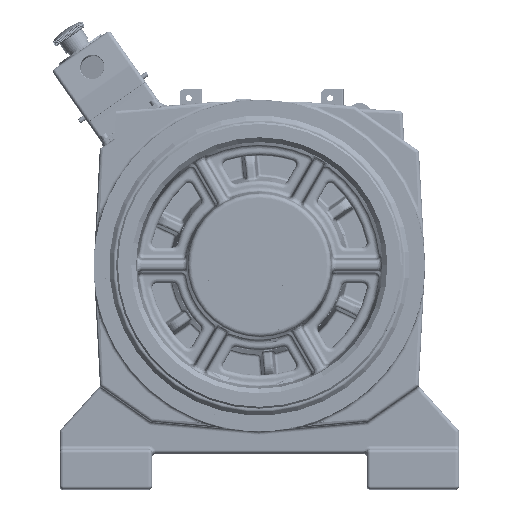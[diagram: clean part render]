
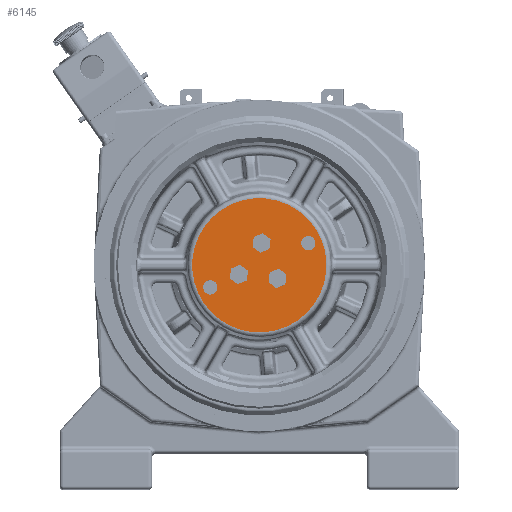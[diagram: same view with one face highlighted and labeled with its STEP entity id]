
A CAD part, top view. The second image highlights one B-rep face of the part: STEP entity #6145.
In plain terms, the highlighted planar face has unit normal (0, 0, 1).
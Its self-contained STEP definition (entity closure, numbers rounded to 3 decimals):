
#104 = CARTESIAN_POINT ( 'NONE',  ( -89.192, 232.614, 454.111 ) ) ;
#258 = VERTEX_POINT ( 'NONE', #74272 ) ;
#2787 = CARTESIAN_POINT ( 'NONE',  ( -10.913, 235.405, 454.111 ) ) ;
#6145 = ADVANCED_FACE ( 'NONE', ( #190985, #207888, #69245, #51208, #36523, #138026 ), #120019, .T. ) ;
#11159 = ORIENTED_EDGE ( 'NONE', *, *, #117328, .T. ) ;
#13152 = AXIS2_PLACEMENT_3D ( 'NONE', #22628, #37374, #160204 ) ;
#13923 = CIRCLE ( 'NONE', #139898, 8. ) ;
#15710 = DIRECTION ( 'NONE',  ( 0., 0., -1. ) ) ;
#16741 = DIRECTION ( 'NONE',  ( -0.411, 0.912, 0. ) ) ;
#16912 = CARTESIAN_POINT ( 'NONE',  ( 20.189, 281.968, 454.111 ) ) ;
#20253 = EDGE_LOOP ( 'NONE', ( #164829, #136620 ) ) ;
#20481 = EDGE_CURVE ( 'NONE', #35611, #55560, #125257, .T. ) ;
#22628 = CARTESIAN_POINT ( 'NONE',  ( -85.902, 225.322, 454.111 ) ) ;
#23164 = DIRECTION ( 'NONE',  ( 0., 0., 1. ) ) ;
#25724 = VERTEX_POINT ( 'NONE', #112876 ) ;
#32127 = DIRECTION ( 'NONE',  ( -0.411, 0.912, 0. ) ) ;
#35611 = VERTEX_POINT ( 'NONE', #127542 ) ;
#35895 = ORIENTED_EDGE ( 'NONE', *, *, #61117, .T. ) ;
#36523 = FACE_BOUND ( 'NONE', #171604, .T. ) ;
#37259 = CARTESIAN_POINT ( 'NONE',  ( -82.612, 218.03, 454.111 ) ) ;
#37374 = DIRECTION ( 'NONE',  ( 0., 0., -1. ) ) ;
#38694 = DIRECTION ( 'NONE',  ( 0., 0., -1. ) ) ;
#39683 = DIRECTION ( 'NONE',  ( -0.411, 0.912, 0. ) ) ;
#42353 = AXIS2_PLACEMENT_3D ( 'NONE', #66401, #47221, #16741 ) ;
#42988 = CIRCLE ( 'NONE', #169052, 75. ) ;
#46244 = CARTESIAN_POINT ( 'NONE',  ( -0.366, 181.636, 454.111 ) ) ;
#47221 = DIRECTION ( 'NONE',  ( 0., 0., -1. ) ) ;
#51208 = FACE_BOUND ( 'NONE', #130465, .T. ) ;
#52282 = AXIS2_PLACEMENT_3D ( 'NONE', #212573, #15710, #170194 ) ;
#52999 = CIRCLE ( 'NONE', #207810, 8. ) ;
#54670 = DIRECTION ( 'NONE',  ( -0.411, 0.912, 0. ) ) ;
#55560 = VERTEX_POINT ( 'NONE', #179347 ) ;
#60993 = CARTESIAN_POINT ( 'NONE',  ( -7.623, 228.113, 454.111 ) ) ;
#61117 = EDGE_CURVE ( 'NONE', #25724, #86072, #107169, .T. ) ;
#66157 = CIRCLE ( 'NONE', #192150, 8. ) ;
#66401 = CARTESIAN_POINT ( 'NONE',  ( -53.999, 239.717, 454.111 ) ) ;
#67843 = DIRECTION ( 'NONE',  ( 0., 0., -1. ) ) ;
#69245 = FACE_BOUND ( 'NONE', #20253, .T. ) ;
#70239 = ORIENTED_EDGE ( 'NONE', *, *, #75553, .T. ) ;
#71617 = DIRECTION ( 'NONE',  ( 0., 0., -1. ) ) ;
#71980 = DIRECTION ( 'NONE',  ( -0.411, 0.912, 0. ) ) ;
#74272 = CARTESIAN_POINT ( 'NONE',  ( -25.432, 267.583, 454.111 ) ) ;
#75553 = EDGE_CURVE ( 'NONE', #85695, #91602, #161388, .T. ) ;
#78916 = DIRECTION ( 'NONE',  ( 0., 0., 1. ) ) ;
#85695 = VERTEX_POINT ( 'NONE', #16912 ) ;
#86072 = VERTEX_POINT ( 'NONE', #46244 ) ;
#86181 = DIRECTION ( 'NONE',  ( -0.411, 0.912, 0. ) ) ;
#91602 = VERTEX_POINT ( 'NONE', #93450 ) ;
#91942 = DIRECTION ( 'NONE',  ( -0.411, 0.912, 0. ) ) ;
#91946 = AXIS2_PLACEMENT_3D ( 'NONE', #157922, #122968, #208604 ) ;
#92754 = DIRECTION ( 'NONE',  ( -0.411, 0.912, 0. ) ) ;
#93450 = CARTESIAN_POINT ( 'NONE',  ( 26.769, 267.384, 454.111 ) ) ;
#94603 = ORIENTED_EDGE ( 'NONE', *, *, #124445, .T. ) ;
#96722 = EDGE_CURVE ( 'NONE', #161895, #105491, #66157, .T. ) ;
#98663 = AXIS2_PLACEMENT_3D ( 'NONE', #206772, #208970, #86181 ) ;
#99116 = CIRCLE ( 'NONE', #52282, 8. ) ;
#102397 = CIRCLE ( 'NONE', #98663, 8. ) ;
#105491 = VERTEX_POINT ( 'NONE', #152251 ) ;
#107169 = CIRCLE ( 'NONE', #211592, 75. ) ;
#107392 = DIRECTION ( 'NONE',  ( 0., 0., -1. ) ) ;
#112073 = AXIS2_PLACEMENT_3D ( 'NONE', #204270, #67843, #71980 ) ;
#112725 = DIRECTION ( 'NONE',  ( -0.411, 0.912, 0. ) ) ;
#112876 = CARTESIAN_POINT ( 'NONE',  ( -62.058, 318.362, 454.111 ) ) ;
#116368 = VERTEX_POINT ( 'NONE', #37259 ) ;
#116556 = ORIENTED_EDGE ( 'NONE', *, *, #127580, .T. ) ;
#117328 = EDGE_CURVE ( 'NONE', #91602, #85695, #221541, .T. ) ;
#120019 = PLANE ( 'NONE',  #161442 ) ;
#122968 = DIRECTION ( 'NONE',  ( 0., 0., -1. ) ) ;
#124445 = EDGE_CURVE ( 'NONE', #116368, #149682, #13923, .T. ) ;
#125257 = CIRCLE ( 'NONE', #42353, 8. ) ;
#127542 = CARTESIAN_POINT ( 'NONE',  ( -50.709, 232.425, 454.111 ) ) ;
#127580 = EDGE_CURVE ( 'NONE', #159634, #258, #198482, .T. ) ;
#130465 = EDGE_LOOP ( 'NONE', ( #152161, #116556 ) ) ;
#133138 = EDGE_CURVE ( 'NONE', #55560, #35611, #102397, .T. ) ;
#134497 = EDGE_CURVE ( 'NONE', #86072, #25724, #42988, .T. ) ;
#136620 = ORIENTED_EDGE ( 'NONE', *, *, #133138, .T. ) ;
#138026 = FACE_OUTER_BOUND ( 'NONE', #218351, .T. ) ;
#138562 = CARTESIAN_POINT ( 'NONE',  ( -32.013, 282.167, 454.111 ) ) ;
#139898 = AXIS2_PLACEMENT_3D ( 'NONE', #180272, #176118, #215198 ) ;
#142252 = CARTESIAN_POINT ( 'NONE',  ( 23.479, 274.676, 454.111 ) ) ;
#143060 = EDGE_CURVE ( 'NONE', #258, #159634, #99116, .T. ) ;
#144857 = EDGE_CURVE ( 'NONE', #149682, #116368, #171712, .T. ) ;
#149682 = VERTEX_POINT ( 'NONE', #104 ) ;
#152161 = ORIENTED_EDGE ( 'NONE', *, *, #143060, .T. ) ;
#152251 = CARTESIAN_POINT ( 'NONE',  ( -14.204, 242.697, 454.111 ) ) ;
#155702 = CARTESIAN_POINT ( 'NONE',  ( -31.212, 249.999, 454.111 ) ) ;
#157854 = AXIS2_PLACEMENT_3D ( 'NONE', #142252, #107392, #39683 ) ;
#157922 = CARTESIAN_POINT ( 'NONE',  ( 23.479, 274.676, 454.111 ) ) ;
#159634 = VERTEX_POINT ( 'NONE', #138562 ) ;
#160204 = DIRECTION ( 'NONE',  ( -0.411, 0.912, 0. ) ) ;
#161388 = CIRCLE ( 'NONE', #157854, 8. ) ;
#161442 = AXIS2_PLACEMENT_3D ( 'NONE', #188795, #208982, #32127 ) ;
#161895 = VERTEX_POINT ( 'NONE', #60993 ) ;
#163209 = EDGE_CURVE ( 'NONE', #105491, #161895, #52999, .T. ) ;
#164829 = ORIENTED_EDGE ( 'NONE', *, *, #20481, .T. ) ;
#169052 = AXIS2_PLACEMENT_3D ( 'NONE', #155702, #78916, #112725 ) ;
#169619 = ORIENTED_EDGE ( 'NONE', *, *, #163209, .T. ) ;
#170194 = DIRECTION ( 'NONE',  ( -0.411, 0.912, 0. ) ) ;
#171604 = EDGE_LOOP ( 'NONE', ( #221328, #169619 ) ) ;
#171712 = CIRCLE ( 'NONE', #13152, 8. ) ;
#172375 = EDGE_LOOP ( 'NONE', ( #11159, #70239 ) ) ;
#176118 = DIRECTION ( 'NONE',  ( 0., 0., -1. ) ) ;
#177655 = CARTESIAN_POINT ( 'NONE',  ( -31.212, 249.999, 454.111 ) ) ;
#179347 = CARTESIAN_POINT ( 'NONE',  ( -57.29, 247.009, 454.111 ) ) ;
#180272 = CARTESIAN_POINT ( 'NONE',  ( -85.902, 225.322, 454.111 ) ) ;
#188795 = CARTESIAN_POINT ( 'NONE',  ( -99.575, 219.153, 454.111 ) ) ;
#190985 = FACE_BOUND ( 'NONE', #221397, .T. ) ;
#191119 = ORIENTED_EDGE ( 'NONE', *, *, #144857, .T. ) ;
#192150 = AXIS2_PLACEMENT_3D ( 'NONE', #210017, #38694, #92754 ) ;
#198482 = CIRCLE ( 'NONE', #112073, 8. ) ;
#204270 = CARTESIAN_POINT ( 'NONE',  ( -28.722, 274.875, 454.111 ) ) ;
#206772 = CARTESIAN_POINT ( 'NONE',  ( -53.999, 239.717, 454.111 ) ) ;
#207810 = AXIS2_PLACEMENT_3D ( 'NONE', #2787, #71617, #54670 ) ;
#207888 = FACE_BOUND ( 'NONE', #172375, .T. ) ;
#208604 = DIRECTION ( 'NONE',  ( -0.411, 0.912, 0. ) ) ;
#208970 = DIRECTION ( 'NONE',  ( 0., 0., -1. ) ) ;
#208982 = DIRECTION ( 'NONE',  ( 0., 0., 1. ) ) ;
#210017 = CARTESIAN_POINT ( 'NONE',  ( -10.913, 235.405, 454.111 ) ) ;
#211592 = AXIS2_PLACEMENT_3D ( 'NONE', #177655, #23164, #91942 ) ;
#212573 = CARTESIAN_POINT ( 'NONE',  ( -28.722, 274.875, 454.111 ) ) ;
#215198 = DIRECTION ( 'NONE',  ( -0.411, 0.912, 0. ) ) ;
#218351 = EDGE_LOOP ( 'NONE', ( #35895, #220866 ) ) ;
#220866 = ORIENTED_EDGE ( 'NONE', *, *, #134497, .T. ) ;
#221328 = ORIENTED_EDGE ( 'NONE', *, *, #96722, .T. ) ;
#221397 = EDGE_LOOP ( 'NONE', ( #94603, #191119 ) ) ;
#221541 = CIRCLE ( 'NONE', #91946, 8. ) ;
